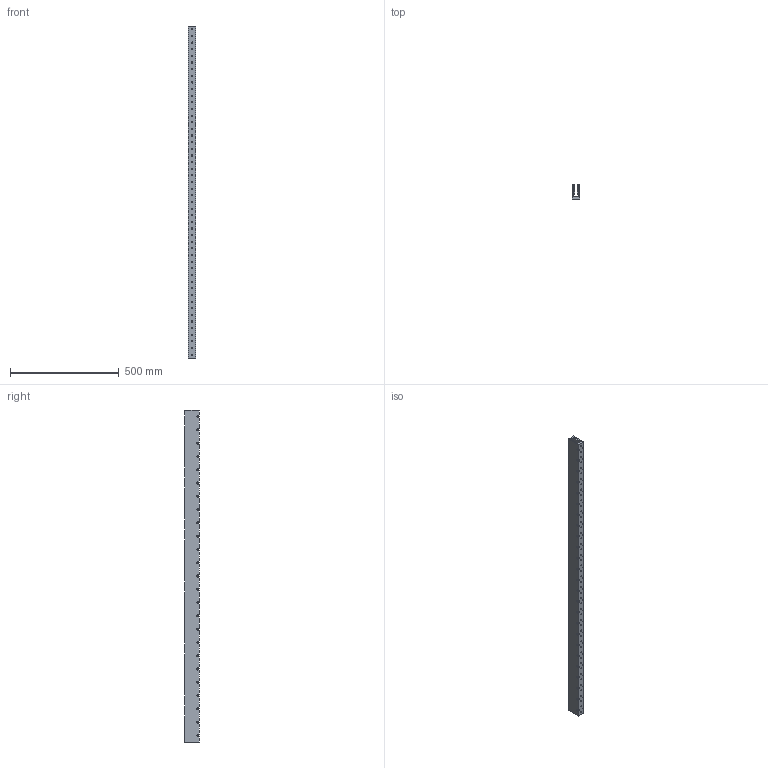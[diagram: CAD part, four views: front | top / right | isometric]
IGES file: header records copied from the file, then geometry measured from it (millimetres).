
Global section: file name: No Iges File Name specified; native system: Autodesk Inventor 2012; preprocessor: AutoDesk Inventor Iges Exporter R2012; author: je17857; date: 20120511.155424; units: inch
Bounding box: 34.29 x 67.31 x 1523.75 mm (x, y, z)
Volume: 2246160.9 mm3; surface area: 585876.9 mm2
Topology: 1 solids, 1 shells, 735 faces, 1699 edges, 1141 vertices
Faces by surface type: plane 585, revolution 150
